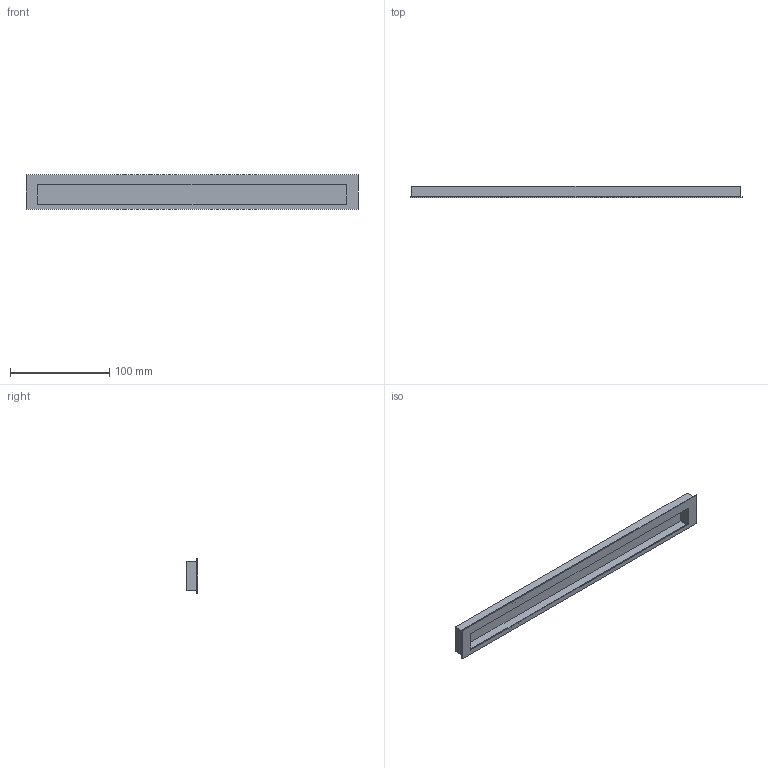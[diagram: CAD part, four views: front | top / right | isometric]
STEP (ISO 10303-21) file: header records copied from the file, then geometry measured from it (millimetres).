
FILE_DESCRIPTION( ( '' ), '1' );
FILE_NAME( 'C:/Documents and Settings/Sachin/Desktop/Sheet 10_1/stp/ 9071082.stp', '2013-10-22T05:59:08', ( '' ), ( '' ), ' ', ' ', ' ' );
FILE_SCHEMA( ( 'CONFIG_CONTROL_DESIGN' ) );
Length unit declared in the file: millimetre
Products named in the file (1): 1
Bounding box: 335 x 12 x 35 mm (x, y, z)
Volume: 27453.9 mm3; surface area: 44751.1 mm2
Topology: 1 solids, 1 shells, 26 faces, 60 edges, 40 vertices
Faces by surface type: plane 22, cylinder 4
Entity records: 776 total; most frequent: CARTESIAN_POINT 127, DIRECTION 122, ORIENTED_EDGE 120, EDGE_CURVE 60, LINE 52, VECTOR 52, VERTEX_POINT 40, AXIS2_PLACEMENT_3D 35
